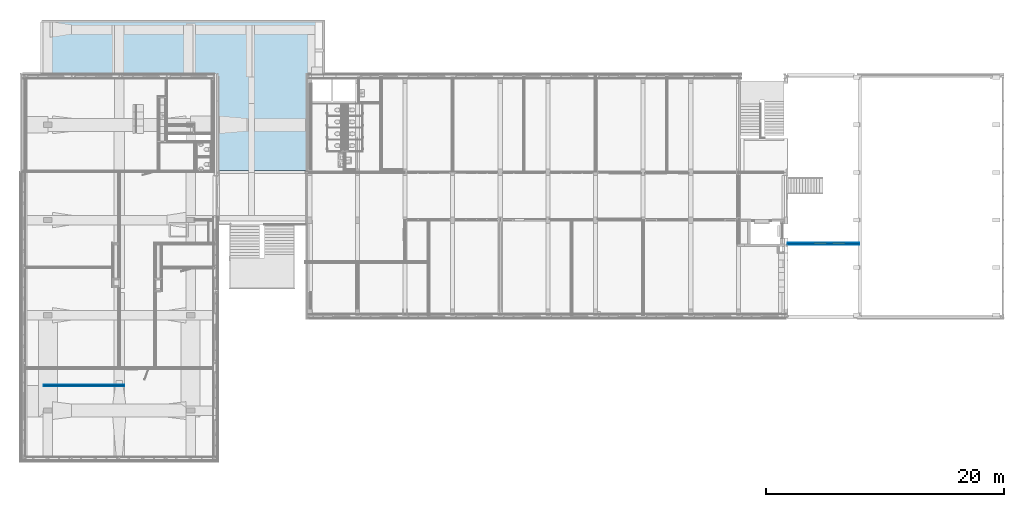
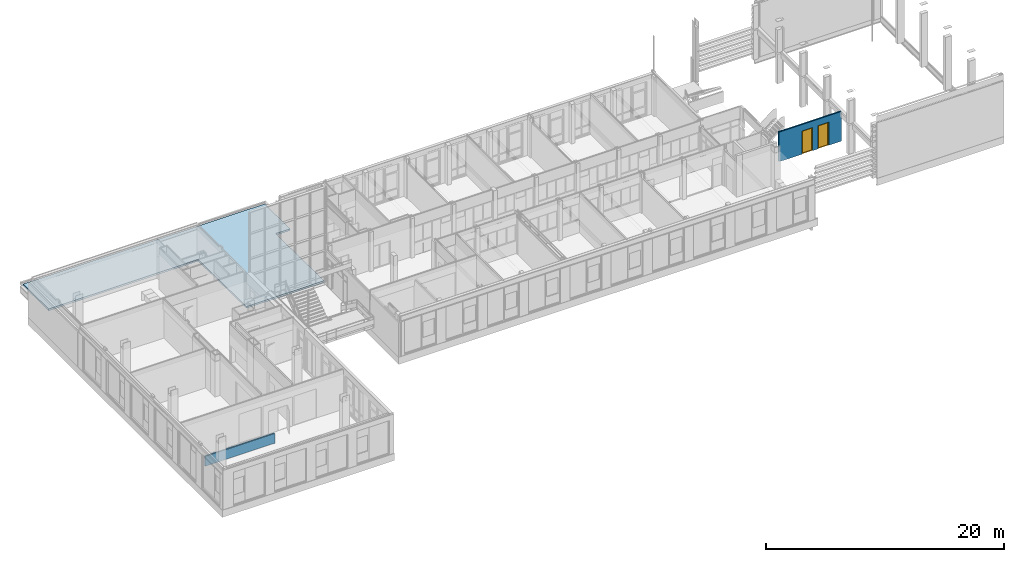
# One storey, part 2 of 94: 10 building element parts, 2 doors, 1 roof, 2 openings, 2 elements without a shape of their own.
"""IFC2X3 building model written with IfcOpenShell, lengths in millimetres."""

from ifc_helpers import new_model, entity, si_unit, converted_unit, derived_unit, money_unit, direction, frame, origin_with_axes, place, context, subcontext, project, spatial, faceted_brep, source, transform, mapped, material, type_object, type_shapes, element, fill, aggregate, save


model = new_model("IFC2X3")

# Units and contexts
model_context = context("Model", 3, precision=0.01, world=origin_with_axes(), true_north=direction((0.0, 1.0)))
body_context = subcontext(model_context, "Body", "Model", "MODEL_VIEW")
ifc_project = project(units=[si_unit("LENGTHUNIT", "METRE", prefix="MILLI"), si_unit("AREAUNIT", "SQUARE_METRE"), si_unit("VOLUMEUNIT", "CUBIC_METRE"), converted_unit("PLANEANGLEUNIT", "DEGREE", entity("IfcPlaneAngleMeasure", 0.0174532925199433), si_unit("PLANEANGLEUNIT", "RADIAN"), dimensions=[0, 0, 0, 0, 0, 0, 0]), money_unit("EUR"), converted_unit("TIMEUNIT", "Year", entity("IfcTimeMeasure", 31557600.0), si_unit("TIMEUNIT", "SECOND"), dimensions=[0, 0, 1, 0, 0, 0, 0]), si_unit("MASSUNIT", "GRAM", prefix="KILO"), si_unit("THERMODYNAMICTEMPERATUREUNIT", "DEGREE_CELSIUS"), si_unit("LUMINOUSINTENSITYUNIT", "LUMEN"), si_unit("ENERGYUNIT", "JOULE", prefix="MEGA"), derived_unit("THERMALCONDUCTANCEUNIT", [(si_unit("POWERUNIT", "WATT"), 1), (si_unit("LENGTHUNIT", "METRE"), -1), (si_unit("THERMODYNAMICTEMPERATUREUNIT", "KELVIN"), -1)]), derived_unit("SPECIFICHEATCAPACITYUNIT", [(si_unit("ENERGYUNIT", "JOULE"), 1), (si_unit("MASSUNIT", "GRAM", prefix="KILO"), -1), (si_unit("THERMODYNAMICTEMPERATUREUNIT", "KELVIN"), -1)]), derived_unit("MASSDENSITYUNIT", [(si_unit("MASSUNIT", "GRAM", prefix="KILO"), 1), (si_unit("VOLUMEUNIT", "CUBIC_METRE"), -1)])], contexts=[model_context])

# Site, building, storey
site_placement = place(None, origin_with_axes())
site = spatial("IfcSite", under=ifc_project, at=site_placement, Name="<site naam>", CompositionType="ELEMENT")
building_placement = place(site_placement, origin_with_axes())
building = spatial("IfcBuilding", under=site, at=building_placement, Name="<Naam gebouw>", CompositionType="ELEMENT")
storey_placement = place(building_placement, frame((0.0, 0.0, 4250.0), z_axis=(0.0, 0.0, 1.0), x_axis=(1.0, 0.0, 0.0)))
storey = spatial("IfcBuildingStorey", under=building, at=storey_placement, Name="01 1e verdieping", CompositionType="ELEMENT", Elevation=4250.0)

# Door
door_style = type_object("IfcDoorStyle", Name="D1 27", ConstructionType="NOTDEFINED", OperationType="SINGLE_SWING_RIGHT", ParameterTakesPrecedence=False, Sizeable=False)
shared_shape = source(origin_with_axes(), body_context, "Body", "Brep", [
    faceted_brep([(467.0, -40.0, 0.0), (467.0, -40.0, 12.0), (450.0, -40.0, 12.0), (450.0, -40.0, 0.0), (-467.0, -40.0, 0.0), (-467.0, -40.0, 12.0), (-450.0, -40.0, 12.0), (-450.0, -114.0, 11.99999999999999), (450.0, -114.0, 11.99999999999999), (450.0, -114.0, 0.0), (-450.0, -114.0, 0.0), (-450.0, -40.0, 0.0)], [[[0, 1, 2, 3]], [[4, 5, 1, 0]], [[1, 5, 6, 7, 8, 2]], [[3, 2, 8, 9]], [[0, 3, 9, 10, 11, 4]], [[11, 6, 5, 4]], [[10, 7, 6, 11]], [[9, 8, 7, 10]]]),
    faceted_brep([(-449.9999999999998, -40.0, 0.0), (-450.0, -39.99999999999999, 2300.0), (-450.0, -114.0, 2300.0), (-450.0, -114.0, 0.0), (-467.0, -40.0, 2300.0), (-467.0, -40.0, 0.0), (-467.0, 0.0, 2300.0), (-517.0, 0.0, 2300.0), (-517.0, -114.0, 2300.0), (-517.0, -114.0, 0.0), (-517.0, 0.0, 0.0), (-467.0, 0.0, 0.0)], [[[0, 1, 2, 3]], [[4, 1, 0, 5]], [[4, 6, 7, 8, 2, 1]], [[3, 2, 8, 9]], [[5, 0, 3, 9, 10, 11]], [[6, 4, 5, 11]], [[6, 11, 10, 7]], [[10, 9, 8, 7]]]),
    faceted_brep([(467.0, -40.0, 2300.0), (450.0, -39.99999999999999, 2300.0), (450.0, -114.0, 2300.0), (517.0, -114.0, 2300.0), (517.0, 0.0, 2300.0), (467.0, 0.0, 2300.0), (467.0, -40.0, 0.0), (450.0, -40.0, 0.0), (450.0, -114.0, 0.0), (517.0, -114.0, 0.0), (517.0, 0.0, 0.0), (467.0, 0.0, 0.0)], [[[0, 1, 2, 3, 4, 5]], [[1, 0, 6, 7]], [[1, 7, 8, 2]], [[3, 2, 8, 9]], [[4, 3, 9, 10]], [[11, 5, 4, 10]], [[0, 5, 11, 6]], [[6, 11, 10, 9, 8, 7]]]),
    faceted_brep([(-467.0, 0.0, 2317.0), (-467.0, 0.0, 2300.0), (-517.0, 0.0, 2300.0), (-517.0, 0.0, 2367.0), (517.0, 0.0, 2367.0), (517.0, 0.0, 2300.0), (467.0, 0.0, 2300.0), (467.0, 0.0, 2317.0), (-467.0, -40.0, 2317.0), (-467.0, -40.0, 2300.0), (-450.0, -39.99999999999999, 2300.0), (-450.0, -114.0, 2300.0), (-517.0, -114.0, 2300.0), (-517.0, -114.0, 2367.0), (517.0, -114.0, 2367.0), (517.0, -114.0, 2300.0), (467.0, -40.0, 2300.0), (450.0, -114.0, 2300.0), (450.0, -39.99999999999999, 2300.0), (467.0, -40.0, 2317.0)], [[[0, 1, 2, 3, 4, 5, 6, 7]], [[1, 0, 8, 9]], [[9, 10, 11, 12, 2, 1]], [[2, 12, 13, 3]], [[3, 13, 14, 4]], [[4, 14, 15, 5]], [[16, 6, 5, 15, 17, 18]], [[7, 6, 16, 19]], [[0, 7, 19, 8]], [[16, 18, 10, 9, 8, 19]], [[10, 18, 17, 11]], [[17, 15, 14, 13, 12, 11]]]),
    faceted_brep([(467.0000000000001, 0.0, 0.0), (467.0000000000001, -40.0, 0.0), (-467.0, -40.0, 0.0), (-467.0, 0.0, 0.0), (467.0000000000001, 0.0, 2317.0), (467.0000000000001, -40.00000000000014, 2317.0), (-467.0, -40.00000000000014, 2317.0), (-467.0, 0.0, 2317.0)], [[[0, 1, 2, 3]], [[4, 5, 1, 0]], [[1, 5, 6, 2]], [[3, 2, 6, 7]], [[0, 3, 7, 4]], [[7, 6, 5, 4]]]),
])
type_shapes(door_style, [shared_shape])
wall_2_placement = place(storey_placement, frame((52135.00000000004, 6085.000000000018, 2095.000000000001), z_axis=(0.0, 0.0, 1.0), x_axis=(0.9999999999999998, 2.260177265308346e-08, 0.0)))
opening_1_placement = place(wall_2_placement, frame((4297.782841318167, 0.0, 0.0), z_axis=(0.0, 0.0, 1.0), x_axis=(1.0, 0.0, 0.0)))
door_1_placement = place(opening_1_placement, frame((-450.0000000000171, 0.0, 0.0), z_axis=(0.0, 0.0, 1.0), x_axis=(1.0, 0.0, 0.0)))
door_1 = element("IfcDoor", 1, at=door_1_placement, inside=storey, type_object=door_style, Name="22_BI-A-06 sp_305", ObjectType="DOOR", OverallHeight=2367.0, OverallWidth=1034.0, context=body_context, shape_type="MappedRepresentation", body=[
    mapped(shared_shape, transform((450.0000036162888, 9.999902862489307, 0.0))),
])

opening_2_placement = place(wall_2_placement, frame((2739.00000803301, 0.0, 0.0), z_axis=(0.0, 0.0, 1.0), x_axis=(1.0, 0.0, 0.0)))
door_2_placement = place(opening_2_placement, frame((-450.0000000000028, 0.0, 0.0), z_axis=(0.0, 0.0, 1.0), x_axis=(1.0, 0.0, 0.0)))
door_2 = element("IfcDoor", 2, at=door_2_placement, inside=storey, type_object=door_style, Name="22_BI-A-06 sp_305", ObjectType="DOOR", OverallHeight=2367.0, OverallWidth=1034.0, context=body_context, shape_type="MappedRepresentation", body=[
    mapped(shared_shape, transform((450.0000036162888, 9.999938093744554, 0.0))),
])

# Roof
ifc_material_1 = material(Name="ALG - ISOLATIE")
roof_placement = place(storey_placement, frame((4334.91193129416, 12171.00035728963, 113.4816963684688), z_axis=(0.0, 0.0, 1.0), x_axis=(1.0, 0.0, 0.0)))
element("IfcRoof", 3, at=roof_placement, inside=storey, material=ifc_material_1, Name="27_Dak_ALG", ShapeType="NOTDEFINED", context=body_context, shape_type="Brep", body=[
    faceted_brep([(8740.02411321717, 8153.999640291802, -113.4816963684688), (8740.024113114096, 12443.99551750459, -113.4816963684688), (8740.024112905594, 12443.99551777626, 7.690888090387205), (8740.024112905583, 8153.999640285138, 67.59442334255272), (8115.088081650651, 12443.99551750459, -113.4816963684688), (8115.088081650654, 8153.999640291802, -113.4816963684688), (8115.088081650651, 12443.99551736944, -173.7622473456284), (-14673.93405071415, 12443.99551736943, -173.7622473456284), (-14673.93405032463, 12443.99551777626, 7.690888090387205), (-14673.93405032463, 8123.072817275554, 68.0262713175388), (-203.9873027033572, 8123.072817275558, 68.0262713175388), (-203.9873027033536, 0.0, 181.4531352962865), (7330.088068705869, 0.0, 181.4531352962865), (7330.088068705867, 8153.999640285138, 67.59442334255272), (7330.088068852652, 8153.999640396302, -113.8587121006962), (8115.088081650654, 8153.999640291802, -113.8587121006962), (7330.088068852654, -3.895319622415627e-07, -1.399707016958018e-07), (-203.9873030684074, -3.895337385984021e-07, -1.399707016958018e-07), (-203.9873030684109, 8123.072817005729, -113.4268641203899), (-14673.93405071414, 8123.072817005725, -113.4268641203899)], [[[0, 1, 2, 3]], [[4, 1, 0, 5]], [[4, 6, 7, 8, 2, 1]], [[8, 9, 10, 11, 12, 13, 3, 2]], [[5, 0, 3, 13, 14, 15]], [[6, 4, 5, 15]], [[6, 15, 14, 16, 17, 18, 19, 7]], [[19, 9, 8, 7]], [[18, 10, 9, 19]], [[17, 11, 10, 18]], [[16, 12, 11, 17]], [[14, 13, 12, 16]]]),
])

# Wall, building element parts
wall_type = type_object("IfcWallType", Name="MS-01 GF 150 ECO DGS/2.100.2.A 150", PredefinedType="NOTDEFINED")
wall_1_placement = place(storey_placement, frame((-3599.999999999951, -5976.565190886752, 0.0), z_axis=(0.0, 0.0, 1.0), x_axis=(-1.0, 0.0, 0.0)))
wall_1 = element("IfcWall", 4, at=wall_1_placement, inside=storey, type_object=wall_type, Name="22_Binnenwand_MS-01")
ifc_material_2 = material(Name="gipsplaat")
building_element_part_1_placement = place(wall_1_placement, origin_with_axes())
building_element_part_1 = element("IfcBuildingElementPart", 5, at=building_element_part_1_placement, material=ifc_material_2, Name="gipsplaat", context=body_context, shape_type="Brep", body=[
    faceted_brep([(0.0, 0.0, 3.000000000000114), (0.0, -12.50000000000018, 3.000000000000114), (0.0, -12.50000000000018, 1000.0), (0.0, 0.0, 1000.0), (6750.000000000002, -12.50000000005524, 3.000000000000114), (6750.000000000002, 0.0, 3.000000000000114), (6750.000000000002, -12.50000000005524, 1000.0), (6750.000000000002, 0.0, 1000.0)], [[[0, 1, 2, 3]], [[4, 1, 0, 5]], [[1, 4, 6, 2]], [[2, 6, 7, 3]], [[5, 0, 3, 7]], [[4, 5, 7, 6]]]),
])
building_element_part_2_placement = place(wall_1_placement, origin_with_axes())
building_element_part_2 = element("IfcBuildingElementPart", 6, at=building_element_part_2_placement, material=ifc_material_2, Name="gipsplaat", context=body_context, shape_type="Brep", body=[
    faceted_brep([(0.0, -12.50000000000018, 3.000000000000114), (0.0, -25.00000000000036, 3.000000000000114), (0.0, -25.00000000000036, 1000.0), (0.0, -12.50000000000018, 1000.0), (6750.0, -25.00000000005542, 3.000000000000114), (6750.0, -12.50000000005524, 3.000000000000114), (6750.0, -25.00000000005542, 1000.0), (6750.0, -12.50000000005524, 1000.0)], [[[0, 1, 2, 3]], [[4, 1, 0, 5]], [[1, 4, 6, 2]], [[2, 6, 7, 3]], [[5, 0, 3, 7]], [[4, 5, 7, 6]]]),
])
ifc_material_3 = material(Name="isolatie_steenwol LSW")
building_element_part_3_placement = place(wall_1_placement, origin_with_axes())
building_element_part_3 = element("IfcBuildingElementPart", 7, at=building_element_part_3_placement, material=ifc_material_3, Name="isolatie_steenwol LSW", context=body_context, shape_type="Brep", body=[
    faceted_brep([(0.0, -25.00000000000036, 3.000000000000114), (0.0, -125.0, 3.000000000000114), (0.0, -125.0, 1000.0), (0.0, -25.00000000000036, 1000.0), (6750.000000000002, -125.0000000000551, 3.000000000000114), (6750.000000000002, -25.00000000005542, 3.000000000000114), (6750.000000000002, -125.0000000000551, 1000.0), (6750.000000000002, -25.00000000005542, 1000.0)], [[[0, 1, 2, 3]], [[4, 1, 0, 5]], [[1, 4, 6, 2]], [[2, 6, 7, 3]], [[5, 0, 3, 7]], [[4, 5, 7, 6]]]),
])
building_element_part_4_placement = place(wall_1_placement, origin_with_axes())
building_element_part_4 = element("IfcBuildingElementPart", 8, at=building_element_part_4_placement, material=ifc_material_2, Name="gipsplaat", context=body_context, shape_type="Brep", body=[
    faceted_brep([(0.0, -137.5000000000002, 3.000000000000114), (0.0, -150.0000000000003, 3.000000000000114), (0.0, -150.0000000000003, 1000.0), (0.0, -137.5000000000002, 1000.0), (6750.000000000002, -150.0000000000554, 3.000000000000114), (6750.000000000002, -137.5000000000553, 3.000000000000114), (6750.000000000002, -150.0000000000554, 1000.0), (6750.000000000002, -137.5000000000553, 1000.0)], [[[0, 1, 2, 3]], [[4, 1, 0, 5]], [[1, 4, 6, 2]], [[2, 6, 7, 3]], [[5, 0, 3, 7]], [[4, 5, 7, 6]]]),
])
building_element_part_5_placement = place(wall_1_placement, origin_with_axes())
building_element_part_5 = element("IfcBuildingElementPart", 9, at=building_element_part_5_placement, material=ifc_material_2, Name="gipsplaat", context=body_context, shape_type="Brep", body=[
    faceted_brep([(0.0, -125.0, 3.000000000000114), (0.0, -137.5000000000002, 3.000000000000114), (0.0, -137.5000000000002, 1000.0), (0.0, -125.0, 1000.0), (6750.000000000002, -137.5000000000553, 3.000000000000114), (6750.000000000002, -125.0000000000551, 3.000000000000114), (6750.000000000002, -137.5000000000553, 1000.0), (6750.000000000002, -125.0000000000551, 1000.0)], [[[0, 1, 2, 3]], [[4, 1, 0, 5]], [[1, 4, 6, 2]], [[2, 6, 7, 3]], [[5, 0, 3, 7]], [[4, 5, 7, 6]]]),
])
aggregate(wall_1, [building_element_part_1, building_element_part_2, building_element_part_3, building_element_part_4, building_element_part_5])

# Wall, opening
wall_2 = element("IfcWall", 10, at=wall_2_placement, inside=storey, type_object=wall_type, Name="22_Binnenwand_MS-01")
opening_1 = element("IfcOpeningElement", 11, at=opening_1_placement, cuts=wall_2, Name="22_BI-A-06 sp_305", context=body_context, shape_type="Brep", body=[
    faceted_brep([(-517.0000000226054, -151.0000854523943, 2367.0), (-517.0000000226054, -151.0000854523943, 0.0), (516.9999999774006, -151.0001088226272, 0.0), (516.9999999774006, -151.0001088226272, 2367.0), (-516.9999965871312, 1.000050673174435, 2367.0), (-516.9999965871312, 1.000050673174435, 0.0), (517.0000034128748, 1.000027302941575, 0.0), (517.0000034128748, 1.000027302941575, 2367.0)], [[[0, 1, 2, 3]], [[4, 5, 1, 0]], [[5, 6, 2, 1]], [[6, 7, 3, 2]], [[7, 4, 0, 3]], [[6, 5, 4, 7]]]),
])

fill(opening_1, door_1)

# Opening
opening_2 = element("IfcOpeningElement", 12, at=opening_2_placement, cuts=wall_2, Name="22_BI-A-06 sp_305", context=body_context, shape_type="Brep", body=[
    faceted_brep([(-517.0000000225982, -151.000050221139, 2367.0), (-517.0000000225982, -151.000050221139, 0.0), (516.9999999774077, -151.0000735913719, 0.0), (516.9999999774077, -151.0000735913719, 2367.0), (-516.9999965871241, 1.000085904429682, 2367.0), (-516.9999965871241, 1.000085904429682, 0.0), (517.0000034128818, 1.000062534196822, 0.0), (517.0000034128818, 1.000062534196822, 2367.0)], [[[0, 1, 2, 3]], [[4, 5, 1, 0]], [[5, 6, 2, 1]], [[6, 7, 3, 2]], [[7, 4, 0, 3]], [[6, 5, 4, 7]]]),
])

fill(opening_2, door_2)

# Building element part
building_element_part_6_placement = place(wall_2_placement, origin_with_axes())
building_element_part_6 = element("IfcBuildingElementPart", 13, at=building_element_part_6_placement, material=ifc_material_2, Name="gipsplaat", context=body_context, shape_type="Brep", body=[
    faceted_brep([(0.0, 0.0, 0.0), (6022.782844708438, -0.0001361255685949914, 0.0), (6022.782844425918, -12.50013612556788, 0.0), (-2.825188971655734e-07, -12.50000000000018, 0.0), (0.0, 0.0, 3038.0), (6022.782844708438, -0.0001361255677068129, 3038.0), (6022.782844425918, -12.50013612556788, 3038.0), (-2.825188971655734e-07, -12.50000000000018, 3038.0)], [[[0, 1, 2, 3]], [[4, 5, 1, 0]], [[2, 1, 5, 6]], [[3, 2, 6, 7]], [[4, 0, 3, 7]], [[7, 6, 5, 4]]]),
])

building_element_part_7_placement = place(wall_2_placement, origin_with_axes())
building_element_part_7 = element("IfcBuildingElementPart", 14, at=building_element_part_7_placement, material=ifc_material_2, Name="gipsplaat", context=body_context, shape_type="Brep", body=[
    faceted_brep([(-2.825188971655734e-07, -12.50000000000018, 0.0), (6022.782844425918, -12.50013612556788, 0.0), (6022.782844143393, -25.00013612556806, 0.0), (-5.650448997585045e-07, -25.00000000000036, 0.0), (-2.825188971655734e-07, -12.50000000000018, 3038.0), (6022.782844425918, -12.50013612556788, 3038.0), (6022.782844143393, -25.00013612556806, 3038.0), (-5.650448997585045e-07, -24.99999999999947, 3038.0)], [[[0, 1, 2, 3]], [[4, 5, 1, 0]], [[2, 1, 5, 6]], [[3, 2, 6, 7]], [[4, 0, 3, 7]], [[7, 6, 5, 4]]]),
])

building_element_part_8_placement = place(wall_2_placement, origin_with_axes())
building_element_part_8 = element("IfcBuildingElementPart", 15, at=building_element_part_8_placement, material=ifc_material_3, Name="isolatie_steenwol LSW", context=body_context, shape_type="Brep", body=[
    faceted_brep([(30.00003445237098, -106.999865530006, 0.0), (16.99946576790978, -106.9998809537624, 0.0), (16.99946536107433, -125.0000003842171, 0.0), (-2.825217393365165e-06, -124.9999999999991, 0.0), (-5.650448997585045e-07, -25.00000000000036, 0.0), (6022.782844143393, -25.00013612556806, 0.0), (6022.78284188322, -125.0001361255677, 0.0), (30.00003404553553, -125.0000006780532, 0.0), (16.99946576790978, -106.9998809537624, 2154.999999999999), (30.00003445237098, -106.999865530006, 2154.999999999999), (16.99946536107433, -125.0000003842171, 2154.999999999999), (30.00003404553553, -125.0000006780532, 2154.999999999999), (6022.78284188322, -125.0001361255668, 3038.0), (-2.825217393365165e-06, -124.9999999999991, 3038.0), (-5.650448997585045e-07, -24.99999999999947, 3038.0), (6022.782844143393, -25.00013612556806, 3038.0)], [[[0, 1, 2, 3, 4, 5, 6, 7]], [[8, 1, 0, 9]], [[10, 2, 1, 8]], [[10, 11, 7, 6, 12, 13, 3, 2]], [[13, 14, 4, 3]], [[4, 14, 15, 5]], [[12, 6, 5, 15]], [[9, 0, 7, 11]], [[9, 11, 10, 8]], [[14, 13, 12, 15]]]),
])

building_element_part_9_placement = place(wall_2_placement, origin_with_axes())
building_element_part_9 = element("IfcBuildingElementPart", 16, at=building_element_part_9_placement, material=ifc_material_2, Name="gipsplaat", context=body_context, shape_type="Brep", body=[
    faceted_brep([(30.00003404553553, -125.0000006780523, 2154.999999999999), (16.99946536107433, -125.0000003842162, 2154.999999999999), (16.99946536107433, -125.0000003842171, 0.0), (-2.825217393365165e-06, -124.9999999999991, 0.0), (-2.825217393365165e-06, -124.9999999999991, 3038.0), (6022.78284188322, -125.0001361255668, 3038.0), (6022.78284188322, -125.0001361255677, 0.0), (30.00003404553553, -125.0000006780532, 0.0), (16.99946507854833, -137.5000003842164, 2154.999999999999), (30.00003376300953, -137.5000006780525, 2154.999999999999), (16.99946507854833, -137.5000003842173, 0.0), (-3.107743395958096e-06, -137.4999999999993, 0.0), (-3.107743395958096e-06, -137.4999999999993, 3038.0), (6022.782841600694, -137.500136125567, 3038.0), (6022.782841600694, -137.500136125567, 0.0), (30.00003376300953, -137.5000006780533, 0.0)], [[[0, 1, 2, 3, 4, 5, 6, 7]], [[8, 1, 0, 9]], [[10, 2, 1, 8]], [[3, 2, 10, 11]], [[12, 4, 3, 11]], [[4, 12, 13, 5]], [[13, 14, 6, 5]], [[14, 15, 7, 6]], [[9, 0, 7, 15]], [[8, 9, 15, 14, 13, 12, 11, 10]]]),
])

building_element_part_10_placement = place(wall_2_placement, origin_with_axes())
building_element_part_10 = element("IfcBuildingElementPart", 17, at=building_element_part_10_placement, material=ifc_material_2, Name="gipsplaat", context=body_context, shape_type="Brep", body=[
    faceted_brep([(30.00003376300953, -137.5000006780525, 2154.999999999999), (16.99946507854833, -137.5000003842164, 2154.999999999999), (16.99946507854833, -137.5000003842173, 0.0), (-3.107743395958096e-06, -137.4999999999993, 0.0), (-3.107743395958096e-06, -137.4999999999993, 3038.0), (6022.782841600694, -137.500136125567, 3038.0), (6022.782841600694, -137.500136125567, 0.0), (30.00003376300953, -137.5000006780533, 0.0), (16.99946479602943, -150.0000003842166, 2154.999999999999), (30.00003348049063, -150.0000006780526, 2154.999999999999), (16.99946479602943, -150.0000003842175, 0.0), (-3.390262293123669e-06, -149.9999999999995, 0.0), (-3.390262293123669e-06, -149.9999999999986, 3038.0), (6022.782841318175, -150.0001361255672, 3038.0), (6022.782841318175, -150.0001361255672, 0.0), (30.00003348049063, -150.0000006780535, 0.0)], [[[0, 1, 2, 3, 4, 5, 6, 7]], [[8, 1, 0, 9]], [[10, 2, 1, 8]], [[3, 2, 10, 11]], [[12, 4, 3, 11]], [[4, 12, 13, 5]], [[13, 14, 6, 5]], [[14, 15, 7, 6]], [[9, 0, 7, 15]], [[8, 9, 15, 14, 13, 12, 11, 10]]]),
])

aggregate(wall_2, [building_element_part_6, building_element_part_7, building_element_part_8, building_element_part_9, building_element_part_10])

save(model, "model.ifc")
